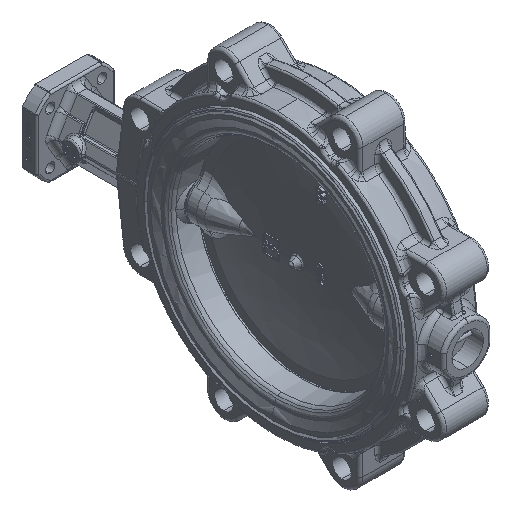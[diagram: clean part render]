
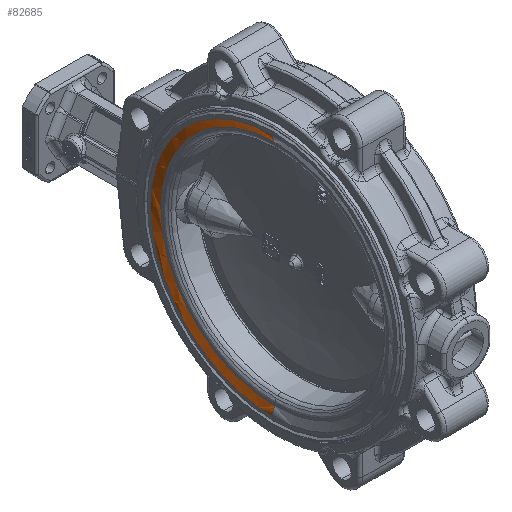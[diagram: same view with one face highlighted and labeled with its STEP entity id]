
A CAD part, isometric view. The second image highlights one B-rep face of the part: STEP entity #82685.
In plain terms, the highlighted free-form (B-spline) face has degree [3, 3] with [4, 4] control points.
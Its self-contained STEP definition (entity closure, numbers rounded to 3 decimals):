
#1793 = EDGE_CURVE ( 'NONE', #14678, #10597, #36792, .T. ) ;
#3721 = CARTESIAN_POINT ( 'NONE',  ( -32.5, 227.308, -113.654 ) ) ;
#4006 = CARTESIAN_POINT ( 'NONE',  ( -32.5, 0., 113.654 ) ) ;
#6106 = CARTESIAN_POINT ( 'NONE',  ( -32.5, 232.663, 116.331 ) ) ;
#6291 = DIRECTION ( 'NONE',  ( 0., 0., 1. ) ) ;
#9790 = CARTESIAN_POINT ( 'NONE',  ( -30., 218., -109. ) ) ;
#10597 = VERTEX_POINT ( 'NONE', #69608 ) ;
#10894 = CARTESIAN_POINT ( 'NONE',  ( -31.636, 222.239, -111.12 ) ) ;
#12535 = CARTESIAN_POINT ( 'NONE',  ( -32.5, 0., 116.331 ) ) ;
#13166 = VERTEX_POINT ( 'NONE', #43970 ) ;
#13409 = ORIENTED_EDGE ( 'NONE', *, *, #68015, .T. ) ;
#13504 = CARTESIAN_POINT ( 'NONE',  ( -32.5, 232.663, -116.331 ) ) ;
#14678 = VERTEX_POINT ( 'NONE', #12535 ) ;
#16571 = CARTESIAN_POINT ( 'NONE',  ( -30., 0., 109. ) ) ;
#23482 = EDGE_CURVE ( 'NONE', #14678, #13166, #39203, .T. ) ;
#24720 = EDGE_LOOP ( 'NONE', ( #32270, #47772, #83445, #13409 ) ) ;
#29697 = CARTESIAN_POINT ( 'NONE',  ( -32.5, 0., -113.654 ) ) ;
#29988 = CARTESIAN_POINT ( 'NONE',  ( -32.5, 232.663, 116.331 ) ) ;
#30277 = CARTESIAN_POINT ( 'NONE',  ( -32.5, 232.663, -116.331 ) ) ;
#32270 = ORIENTED_EDGE ( 'NONE', *, *, #23482, .F. ) ;
#32287 = CARTESIAN_POINT ( 'NONE',  ( -30., 0., -109. ) ) ;
#32743 = DIRECTION ( 'NONE',  ( 0., 1., 0. ) ) ;
#35768 = CARTESIAN_POINT ( 'NONE',  ( -32.5, 0., -116.331 ) ) ;
#36041 = CARTESIAN_POINT ( 'NONE',  ( -30., 218., 109. ) ) ;
#36792 =( BOUNDED_CURVE ( )  B_SPLINE_CURVE ( 3, ( #84538, #6106, #13504, #84810 ),
 .UNSPECIFIED., .F., .F. ) 
 B_SPLINE_CURVE_WITH_KNOTS ( ( 4, 4 ),
 ( 0.5, 1. ),
 .UNSPECIFIED. ) 
 CURVE ( )  GEOMETRIC_REPRESENTATION_ITEM ( )  RATIONAL_B_SPLINE_CURVE ( ( 1., 0.333, 0.333, 1. ) ) 
 REPRESENTATION_ITEM ( '' )  );
#39203 = CIRCLE ( 'NONE', #49539, 12. ) ;
#42315 = CARTESIAN_POINT ( 'NONE',  ( -31.636, 222.239, 111.12 ) ) ;
#43358 = DIRECTION ( 'NONE',  ( 0., 1., 0. ) ) ;
#43442 = CARTESIAN_POINT ( 'NONE',  ( -31.636, 0., -111.12 ) ) ;
#43970 = CARTESIAN_POINT ( 'NONE',  ( -30., 0., 109. ) ) ;
#45421 = CARTESIAN_POINT ( 'NONE',  ( -20.5, 0., 116.331 ) ) ;
#45669 = AXIS2_PLACEMENT_3D ( 'NONE', #59074, #72008, #32743 ) ;
#47772 = ORIENTED_EDGE ( 'NONE', *, *, #1793, .T. ) ;
#48066 = EDGE_CURVE ( 'NONE', #10597, #52494, #59532, .T. ) ;
#48457 = FACE_OUTER_BOUND ( 'NONE', #24720, .T. ) ;
#49539 = AXIS2_PLACEMENT_3D ( 'NONE', #45421, #78419, #6291 ) ;
#52494 = VERTEX_POINT ( 'NONE', #32287 ) ;
#55541 = CARTESIAN_POINT ( 'NONE',  ( -31.636, 0., 111.12 ) ) ;
#56568 =( BOUNDED_SURFACE ( )  B_SPLINE_SURFACE ( 3, 3, ( 
 ( #35768, #30277, #29988, #75045 ),
 ( #29697, #3721, #81622, #4006 ),
 ( #43442, #10894, #42315, #55541 ),
 ( #62138, #9790, #36041, #16571 ) ),
 .UNSPECIFIED., .F., .F., .F. ) 
 B_SPLINE_SURFACE_WITH_KNOTS ( ( 4, 4 ),
 ( 4, 4 ),
 ( 0., 1. ),
 ( 0., 1. ),
 .UNSPECIFIED. ) 
 GEOMETRIC_REPRESENTATION_ITEM ( )  RATIONAL_B_SPLINE_SURFACE ( (
 ( 1., 0.333, 0.333, 1.),
 ( 0.964, 0.321, 0.321, 0.964),
 ( 0.964, 0.321, 0.321, 0.964),
 ( 1., 0.333, 0.333, 1.) ) ) 
 REPRESENTATION_ITEM ( '' )  SURFACE ( )  );
#59074 = CARTESIAN_POINT ( 'NONE',  ( -30., 0., 0. ) ) ;
#59532 = CIRCLE ( 'NONE', #82066, 12. ) ;
#62138 = CARTESIAN_POINT ( 'NONE',  ( -30., 0., -109. ) ) ;
#63754 = CARTESIAN_POINT ( 'NONE',  ( -20.5, 0., -116.331 ) ) ;
#68015 = EDGE_CURVE ( 'NONE', #52494, #13166, #81859, .T. ) ;
#69608 = CARTESIAN_POINT ( 'NONE',  ( -32.5, 0., -116.331 ) ) ;
#72008 = DIRECTION ( 'NONE',  ( 1., 0., 0. ) ) ;
#75045 = CARTESIAN_POINT ( 'NONE',  ( -32.5, 0., 116.331 ) ) ;
#76920 = DIRECTION ( 'NONE',  ( 0., 0., -1. ) ) ;
#78419 = DIRECTION ( 'NONE',  ( 0., -1., 0. ) ) ;
#81622 = CARTESIAN_POINT ( 'NONE',  ( -32.5, 227.308, 113.654 ) ) ;
#81859 = CIRCLE ( 'NONE', #45669, 109. ) ;
#82066 = AXIS2_PLACEMENT_3D ( 'NONE', #63754, #43358, #76920 ) ;
#82685 = ADVANCED_FACE ( 'NONE', ( #48457 ), #56568, .T. ) ;
#83445 = ORIENTED_EDGE ( 'NONE', *, *, #48066, .T. ) ;
#84538 = CARTESIAN_POINT ( 'NONE',  ( -32.5, 0., 116.331 ) ) ;
#84810 = CARTESIAN_POINT ( 'NONE',  ( -32.5, 0., -116.331 ) ) ;
